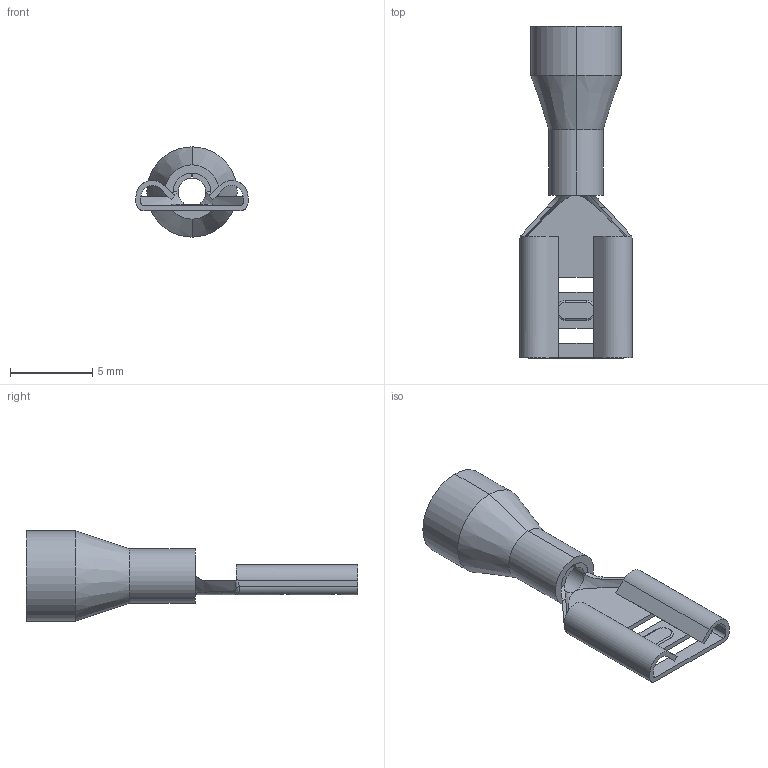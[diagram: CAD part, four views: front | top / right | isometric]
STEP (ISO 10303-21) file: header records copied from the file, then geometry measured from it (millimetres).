
FILE_DESCRIPTION (( 'STEP AP214' ), '1' );
FILE_NAME ('278084 OptiKit S-Pm-PVC-1,25-250.STEP', '2020-02-19T11:02:30', ( '' ), ( '' ), 'SwSTEP 2.0', 'SolidWorks 2018', '' );
FILE_SCHEMA (( 'AUTOMOTIVE_DESIGN' ));
Length unit declared in the file: millimetre
Products named in the file (3): 朽琥屐 酗褥 1,25-250; Îïëåòêà 1111; 278084 OptiKit S-Pm-PVC-1,25-250
Assembly tree (2 placements, depth 2):
  278084 OptiKit S-Pm-PVC-1,25-250
    Îïëåòêà 1111
    朽琥屐 酗褥 1,25-250
Bounding box: 6.82 x 20.2 x 5.5 mm (x, y, z)
Volume: 105.6 mm3; surface area: 554.3 mm2
Topology: 2 solids, 2 shells, 91 faces, 239 edges, 148 vertices
Faces by surface type: plane 40, cylinder 30, bspline 10, cone 8, torus 3
Entity records: 3194 total; most frequent: CARTESIAN_POINT 911, ORIENTED_EDGE 474, DIRECTION 444, EDGE_CURVE 237, AXIS2_PLACEMENT_3D 167, VERTEX_POINT 148, VECTOR 110, LINE 110
